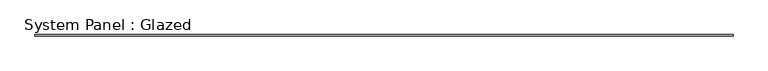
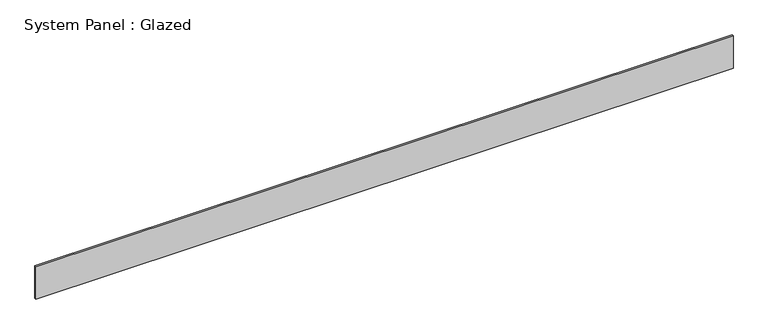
"""IFC4 building model written with IfcOpenShell, lengths in millimetres: plate geometry, System Panel : Glazed."""

from ifc_helpers import new_model, si_unit, origin, origin_with_axes, place, context, project, spatial, polyline, outline, extrude, source, transform, mapped, element, save


def system_panel_glazed_b61b2489(model_context):
    return source(origin(), model_context, "Body", "SweptSolid", [
        extrude(outline(polyline([(6000.0, -12.5), (-6000.0, -12.5), (-6000.0, 12.5), (6000.0, 12.5), (6000.0, -12.5)])), origin_with_axes(), (0.0, 0.0, 1.0), 589.8),
    ])


if __name__ == "__main__":
    model = new_model("IFC4")
    model_context = context("Model", 3, world=origin())
    ifc_project = project(units=[si_unit("LENGTHUNIT", "METRE", prefix="MILLI")], contexts=[model_context])
    site = spatial("IfcSite", under=ifc_project)
    building = spatial("IfcBuilding", under=site)
    placement = place(None, origin())
    system_panel_glazed_shape = system_panel_glazed_b61b2489(model_context)
    element("IfcPlate", 1, ObjectType="System Panel : Glazed", at=placement, inside=building, context=model_context, shape_type="MappedRepresentation", body=[
        mapped(system_panel_glazed_shape, transform((0.0, 0.0, 0.0), x_axis=(1.0, 0.0, 0.0), y_axis=(0.0, 1.0, 0.0), z_axis=(0.0, 0.0, 1.0))),
    ])
    save(model, "model.ifc")
